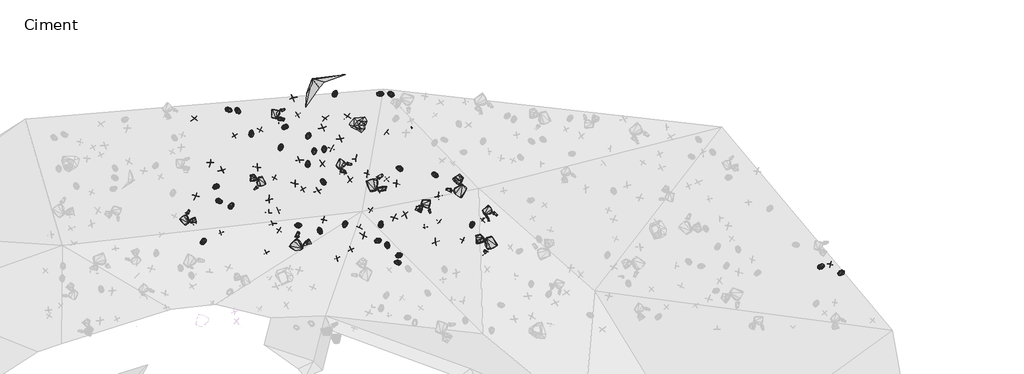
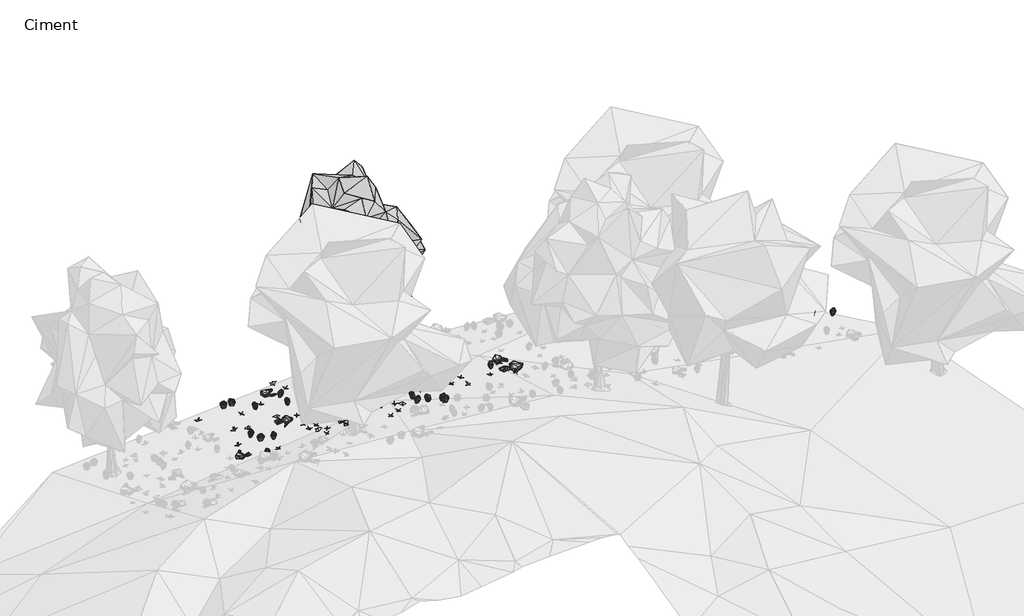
# One storey, part 29 of 30: 89 geographic elements.
"""IFC4 building model written with IfcOpenShell, lengths in millimetres."""

from ifc_helpers import new_model, si_unit, origin, place, context, project, spatial, transform, mapped, element, save
from components import enscape_assetdefinition_bush_025_fern_enscape_5718bf32, enscape_assetdefinition_bush_054_plant_09_version_2_enscape_7b546a12, enscape_assetdefinition_bush_062_plant_09_version_3_enscape_ccf8c8eb, enscape_assetdefinition_deciduous_tree_024_elm_enscape_8f9d8ef3, enscape_assetdefinition_stone_013_group_enscape_516da325, enscape_assetdefinition_stone_013_group_enscape_db9b3e91

model = new_model("IFC4")

# Units and contexts
model_context = context("Model", 3, world=origin())
ifc_project = project(units=[si_unit("LENGTHUNIT", "METRE", prefix="MILLI")], contexts=[model_context])

# Site, building, storey
site = spatial("IfcSite", under=ifc_project)
building = spatial("IfcBuilding", under=site)
storey = spatial("IfcBuildingStorey", under=building, Name="Ciment", Elevation=-1500.0)

# Geographic elements
placement = place(None, origin())
enscape_assetdefinition_bush_025_fern_enscape_shape = enscape_assetdefinition_bush_025_fern_enscape_5718bf32(model_context)
element("IfcGeographicElement", 1, ObjectType="Enscape AssetDefinition - Bush 025 Fern : Enscape AssetDefinition - Bush 025 Fern", at=placement, inside=storey, context=model_context, shape_type="MappedRepresentation", body=[
    mapped(enscape_assetdefinition_bush_025_fern_enscape_shape, transform((9662.6415253, 19468.5821533, -2189.8088455), x_axis=(-0.8992303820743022, 0.4374753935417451, 0.0), y_axis=(-0.4374753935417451, -0.8992303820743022, 0.0), z_axis=(0.0, 0.0, 1.0))),
])
element("IfcGeographicElement", 2, ObjectType="Enscape AssetDefinition - Bush 025 Fern : Enscape AssetDefinition - Bush 025 Fern", at=placement, inside=storey, context=model_context, shape_type="MappedRepresentation", body=[
    mapped(enscape_assetdefinition_bush_025_fern_enscape_shape, transform((6176.8474579, 17539.4592285, -1777.0651579), x_axis=(-0.2179223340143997, -0.9759661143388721, 0.0), y_axis=(0.9759661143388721, -0.2179223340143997, 0.0), z_axis=(0.0, 0.0, 1.0))),
])
element("IfcGeographicElement", 3, ObjectType="Enscape AssetDefinition - Bush 025 Fern : Enscape AssetDefinition - Bush 025 Fern", at=placement, inside=storey, context=model_context, shape_type="MappedRepresentation", body=[
    mapped(enscape_assetdefinition_bush_025_fern_enscape_shape, transform((11106.0228348, 17517.8604126, -1638.122797), x_axis=(-0.23561643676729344, -0.9718461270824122, 0.0), y_axis=(0.9718461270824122, -0.23561643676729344, 0.0), z_axis=(0.0, 0.0, 1.0))),
])
element("IfcGeographicElement", 4, ObjectType="Enscape AssetDefinition - Bush 025 Fern : Enscape AssetDefinition - Bush 025 Fern", at=placement, inside=storey, context=model_context, shape_type="MappedRepresentation", body=[
    mapped(enscape_assetdefinition_bush_025_fern_enscape_shape, transform((7822.1073151, 16721.1875916, -1572.3413229), x_axis=(0.28998935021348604, -0.9570298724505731, 0.0), y_axis=(0.9570298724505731, 0.28998935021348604, 0.0), z_axis=(0.0, 0.0, 1.0))),
])
element("IfcGeographicElement", 5, ObjectType="Enscape AssetDefinition - Bush 025 Fern : Enscape AssetDefinition - Bush 025 Fern", at=placement, inside=storey, context=model_context, shape_type="MappedRepresentation", body=[
    mapped(enscape_assetdefinition_bush_025_fern_enscape_shape, transform((7575.5443573, 17542.8180695, -1831.2122822), x_axis=(0.027685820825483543, 0.9996166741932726, 0.0), y_axis=(-0.9996166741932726, 0.027685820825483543, 0.0), z_axis=(0.0, 0.0, 1.0))),
])
element("IfcGeographicElement", 6, ObjectType="Enscape AssetDefinition - Bush 025 Fern : Enscape AssetDefinition - Bush 025 Fern", at=placement, inside=storey, context=model_context, shape_type="MappedRepresentation", body=[
    mapped(enscape_assetdefinition_bush_025_fern_enscape_shape, transform((8218.0690765, 16064.8860931, -1354.2209864), x_axis=(-0.9989838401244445, 0.04506980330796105, 0.0), y_axis=(-0.04506980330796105, -0.9989838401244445, 0.0), z_axis=(0.0, 0.0, 1.0))),
])
element("IfcGeographicElement", 7, ObjectType="Enscape AssetDefinition - Bush 025 Fern : Enscape AssetDefinition - Bush 025 Fern", at=placement, inside=storey, context=model_context, shape_type="MappedRepresentation", body=[
    mapped(enscape_assetdefinition_bush_025_fern_enscape_shape, transform((5333.1813812, 19198.7133026, -2275.7048607), x_axis=(-0.7331685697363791, 0.6800469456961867, 0.0), y_axis=(-0.6800469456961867, -0.7331685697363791, 0.0), z_axis=(0.0, 0.0, 1.0))),
])
element("IfcGeographicElement", 8, ObjectType="Enscape AssetDefinition - Bush 025 Fern : Enscape AssetDefinition - Bush 025 Fern", at=placement, inside=storey, context=model_context, shape_type="MappedRepresentation", body=[
    mapped(enscape_assetdefinition_bush_025_fern_enscape_shape, transform((7537.3702049, 22606.6226959, -2965.0483131), x_axis=(-0.9817774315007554, -0.19003440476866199, 0.0), y_axis=(0.19003440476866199, -0.9817774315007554, 0.0), z_axis=(0.0, 0.0, 1.0))),
])
element("IfcGeographicElement", 9, ObjectType="Enscape AssetDefinition - Bush 025 Fern : Enscape AssetDefinition - Bush 025 Fern", at=placement, inside=storey, context=model_context, shape_type="MappedRepresentation", body=[
    mapped(enscape_assetdefinition_bush_025_fern_enscape_shape, transform((3850.2941132, 21319.7422028, -2755.3060055), x_axis=(-0.8290707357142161, -0.5591437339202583, 0.0), y_axis=(0.5591437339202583, -0.8290707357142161, 0.0), z_axis=(0.0, 0.0, 1.0))),
])
element("IfcGeographicElement", 10, ObjectType="Enscape AssetDefinition - Bush 025 Fern : Enscape AssetDefinition - Bush 025 Fern", at=placement, inside=storey, context=model_context, shape_type="MappedRepresentation", body=[
    mapped(enscape_assetdefinition_bush_025_fern_enscape_shape, transform((4981.0729027, 20372.6139069, -2532.8435898), x_axis=(0.05044787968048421, -0.9987266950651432, 0.0), y_axis=(0.9987266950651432, 0.05044787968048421, 0.0), z_axis=(0.0, 0.0, 1.0))),
])
element("IfcGeographicElement", 11, ObjectType="Enscape AssetDefinition - Bush 025 Fern : Enscape AssetDefinition - Bush 025 Fern", at=placement, inside=storey, context=model_context, shape_type="MappedRepresentation", body=[
    mapped(enscape_assetdefinition_bush_025_fern_enscape_shape, transform((1175.6744385, 19007.610321, -2318.2077408), x_axis=(-0.7693294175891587, -0.6388522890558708, 0.0), y_axis=(0.6388522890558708, -0.7693294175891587, 0.0), z_axis=(0.0, 0.0, 1.0))),
])
element("IfcGeographicElement", 12, ObjectType="Enscape AssetDefinition - Bush 025 Fern : Enscape AssetDefinition - Bush 025 Fern", at=placement, inside=storey, context=model_context, shape_type="MappedRepresentation", body=[
    mapped(enscape_assetdefinition_bush_025_fern_enscape_shape, transform((4751.0852814, 20966.3314819, -2663.8150215), x_axis=(-0.3727912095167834, -0.9279152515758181, 0.0), y_axis=(0.9279152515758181, -0.3727912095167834, 0.0), z_axis=(0.0, 0.0, 1.0))),
])
element("IfcGeographicElement", 13, ObjectType="Enscape AssetDefinition - Bush 025 Fern : Enscape AssetDefinition - Bush 025 Fern", at=placement, inside=storey, context=model_context, shape_type="MappedRepresentation", body=[
    mapped(enscape_assetdefinition_bush_025_fern_enscape_shape, transform((2558.7348938, 21067.1443939, -2724.1945267), x_axis=(-0.033842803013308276, 0.999427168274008, 0.0), y_axis=(-0.999427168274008, -0.033842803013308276, 0.0), z_axis=(0.0, 0.0, 1.0))),
])
element("IfcGeographicElement", 14, ObjectType="Enscape AssetDefinition - Bush 025 Fern : Enscape AssetDefinition - Bush 025 Fern", at=placement, inside=storey, context=model_context, shape_type="MappedRepresentation", body=[
    mapped(enscape_assetdefinition_bush_025_fern_enscape_shape, transform((7447.2370148, 16908.2336426, -1623.6743927), x_axis=(-0.9418084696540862, -0.3361499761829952, 0.0), y_axis=(0.3361499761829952, -0.9418084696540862, 0.0), z_axis=(0.0, 0.0, 1.0))),
])
element("IfcGeographicElement", 15, ObjectType="Enscape AssetDefinition - Bush 025 Fern : Enscape AssetDefinition - Bush 025 Fern", at=placement, inside=storey, context=model_context, shape_type="MappedRepresentation", body=[
    mapped(enscape_assetdefinition_bush_025_fern_enscape_shape, transform((24638.4830475, 15901.1478424, -2933.601141), x_axis=(0.8923516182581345, 0.45134087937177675, 0.0), y_axis=(-0.45134087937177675, 0.8923516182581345, 0.0), z_axis=(0.0, 0.0, 1.0))),
])
element("IfcGeographicElement", 16, ObjectType="Enscape AssetDefinition - Bush 025 Fern : Enscape AssetDefinition - Bush 025 Fern", at=placement, inside=storey, context=model_context, shape_type="MappedRepresentation", body=[
    mapped(enscape_assetdefinition_bush_025_fern_enscape_shape, transform((1310.5067015, 18440.3572083, -2203.3653259), x_axis=(0.9708565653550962, -0.2396612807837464, 0.0), y_axis=(0.2396612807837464, 0.9708565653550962, 0.0), z_axis=(0.0, 0.0, 1.0))),
])
element("IfcGeographicElement", 17, ObjectType="Enscape AssetDefinition - Bush 025 Fern : Enscape AssetDefinition - Bush 025 Fern", at=placement, inside=storey, context=model_context, shape_type="MappedRepresentation", body=[
    mapped(enscape_assetdefinition_bush_025_fern_enscape_shape, transform((7955.0337791, 22601.2821198, -2956.5558434), x_axis=(-0.926329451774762, 0.3767144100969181, 0.0), y_axis=(-0.3767144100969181, -0.926329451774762, 0.0), z_axis=(0.0, 0.0, 1.0))),
])
element("IfcGeographicElement", 18, ObjectType="Enscape AssetDefinition - Bush 025 Fern : Enscape AssetDefinition - Bush 025 Fern", at=placement, inside=storey, context=model_context, shape_type="MappedRepresentation", body=[
    mapped(enscape_assetdefinition_bush_025_fern_enscape_shape, transform((2033.2241058, 21944.9806213, -2921.1256504), x_axis=(0.678842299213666, -0.7342840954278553, 0.0), y_axis=(0.7342840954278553, 0.678842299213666, 0.0), z_axis=(0.0, 0.0, 1.0))),
])
element("IfcGeographicElement", 19, ObjectType="Enscape AssetDefinition - Bush 025 Fern : Enscape AssetDefinition - Bush 025 Fern", at=placement, inside=storey, context=model_context, shape_type="MappedRepresentation", body=[
    mapped(enscape_assetdefinition_bush_025_fern_enscape_shape, transform((4381.1702728, 17495.5558777, -1850.5074978), x_axis=(0.9855781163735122, 0.1692210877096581, 0.0), y_axis=(-0.1692210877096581, 0.9855781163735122, 0.0), z_axis=(0.0, 0.0, 1.0))),
])
element("IfcGeographicElement", 20, ObjectType="Enscape AssetDefinition - Bush 025 Fern : Enscape AssetDefinition - Bush 025 Fern", at=placement, inside=storey, context=model_context, shape_type="MappedRepresentation", body=[
    mapped(enscape_assetdefinition_bush_025_fern_enscape_shape, transform((5208.8375092, 17281.8088531, -1674.0976572), x_axis=(0.3884507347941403, -0.9214694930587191, 0.0), y_axis=(0.9214694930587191, 0.3884507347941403, 0.0), z_axis=(0.0, 0.0, 1.0))),
])
element("IfcGeographicElement", 21, ObjectType="Enscape AssetDefinition - Bush 025 Fern : Enscape AssetDefinition - Bush 025 Fern", at=placement, inside=storey, context=model_context, shape_type="MappedRepresentation", body=[
    mapped(enscape_assetdefinition_bush_025_fern_enscape_shape, transform((702.9266357, 16879.3792725, -1735.4830503), x_axis=(0.5724685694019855, 0.819926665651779, 0.0), y_axis=(-0.819926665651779, 0.5724685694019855, 0.0), z_axis=(0.0, 0.0, 1.0))),
])
element("IfcGeographicElement", 22, ObjectType="Enscape AssetDefinition - Bush 025 Fern : Enscape AssetDefinition - Bush 025 Fern", at=placement, inside=storey, context=model_context, shape_type="MappedRepresentation", body=[
    mapped(enscape_assetdefinition_bush_025_fern_enscape_shape, transform((5373.1899261, 20446.0792542, -2541.5997505), x_axis=(0.06546062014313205, -0.9978551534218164, 0.0), y_axis=(0.9978551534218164, 0.06546062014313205, 0.0), z_axis=(0.0, 0.0, 1.0))),
])
element("IfcGeographicElement", 23, ObjectType="Enscape AssetDefinition - Bush 025 Fern : Enscape AssetDefinition - Bush 025 Fern", at=placement, inside=storey, context=model_context, shape_type="MappedRepresentation", body=[
    mapped(enscape_assetdefinition_bush_025_fern_enscape_shape, transform((8262.1545792, 16342.4377441, -1455.2102089), x_axis=(-0.9406609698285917, -0.33934781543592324, 0.0), y_axis=(0.33934781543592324, -0.9406609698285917, 0.0), z_axis=(0.0, 0.0, 1.0))),
])
element("IfcGeographicElement", 24, ObjectType="Enscape AssetDefinition - Bush 025 Fern : Enscape AssetDefinition - Bush 025 Fern", at=placement, inside=storey, context=model_context, shape_type="MappedRepresentation", body=[
    mapped(enscape_assetdefinition_bush_025_fern_enscape_shape, transform((3702.3143768, 20538.1145477, -2590.8665657), x_axis=(0.09816968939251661, 0.9951696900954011, 0.0), y_axis=(-0.9951696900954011, 0.09816968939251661, 0.0), z_axis=(0.0, 0.0, 1.0))),
])
element("IfcGeographicElement", 25, ObjectType="Enscape AssetDefinition - Bush 025 Fern : Enscape AssetDefinition - Bush 025 Fern", at=placement, inside=storey, context=model_context, shape_type="MappedRepresentation", body=[
    mapped(enscape_assetdefinition_bush_025_fern_enscape_shape, transform((1780.708313, 18262.1765137, -2157.756567), x_axis=(0.520350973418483, 0.853952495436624, 0.0), y_axis=(-0.853952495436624, 0.520350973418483, 0.0), z_axis=(0.0, 0.0, 1.0))),
])
element("IfcGeographicElement", 26, ObjectType="Enscape AssetDefinition - Bush 025 Fern : Enscape AssetDefinition - Bush 025 Fern", at=placement, inside=storey, context=model_context, shape_type="MappedRepresentation", body=[
    mapped(enscape_assetdefinition_bush_025_fern_enscape_shape, transform((5798.7647057, 22615.530014, -2997.746706), x_axis=(0.24118285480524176, 0.9704796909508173, 0.0), y_axis=(-0.9704796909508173, 0.24118285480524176, 0.0), z_axis=(0.0, 0.0, 1.0))),
])
element("IfcGeographicElement", 27, ObjectType="Enscape AssetDefinition - Bush 025 Fern : Enscape AssetDefinition - Bush 025 Fern", at=placement, inside=storey, context=model_context, shape_type="MappedRepresentation", body=[
    mapped(enscape_assetdefinition_bush_025_fern_enscape_shape, transform((4743.6695099, 19890.1195526, -2433.9232445), x_axis=(-0.020163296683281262, 0.9997967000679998, 0.0), y_axis=(-0.9997967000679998, -0.020163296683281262, 0.0), z_axis=(0.0, 0.0, 1.0))),
])
element("IfcGeographicElement", 28, ObjectType="Enscape AssetDefinition - Bush 025 Fern : Enscape AssetDefinition - Bush 025 Fern", at=placement, inside=storey, context=model_context, shape_type="MappedRepresentation", body=[
    mapped(enscape_assetdefinition_bush_025_fern_enscape_shape, transform((1683.052063, 21978.4049988, -2934.472084), x_axis=(0.959967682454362, -0.2801107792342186, 0.0), y_axis=(0.2801107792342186, 0.959967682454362, 0.0), z_axis=(0.0, 0.0, 1.0))),
])
element("IfcGeographicElement", 29, ObjectType="Enscape AssetDefinition - Bush 025 Fern : Enscape AssetDefinition - Bush 025 Fern", at=placement, inside=storey, context=model_context, shape_type="MappedRepresentation", body=[
    mapped(enscape_assetdefinition_bush_025_fern_enscape_shape, transform((25400.1102448, 15657.4048996, -2988.0547523), x_axis=(-0.8319604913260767, -0.5548348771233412, 0.0), y_axis=(0.5548348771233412, -0.8319604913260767, 0.0), z_axis=(0.0, 0.0, 1.0))),
])
element("IfcGeographicElement", 30, ObjectType="Enscape AssetDefinition - Bush 025 Fern : Enscape AssetDefinition - Bush 025 Fern", at=placement, inside=storey, context=model_context, shape_type="MappedRepresentation", body=[
    mapped(enscape_assetdefinition_bush_025_fern_enscape_shape, transform((8297.7619171, 19713.6955261, -2302.9317856), x_axis=(-0.9173004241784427, 0.39819584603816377, 0.0), y_axis=(-0.39819584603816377, -0.9173004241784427, 0.0), z_axis=(0.0, 0.0, 1.0))),
])
enscape_assetdefinition_bush_054_plant_09_version_2_enscape_shape = enscape_assetdefinition_bush_054_plant_09_version_2_enscape_7b546a12(model_context)
element("IfcGeographicElement", 31, ObjectType="Enscape AssetDefinition - Bush 054 Plant 09, Version 2 : Enscape AssetDefinition - Bush 054 Plant 09, Version 2", at=placement, inside=storey, context=model_context, shape_type="MappedRepresentation", body=[
    mapped(enscape_assetdefinition_bush_054_plant_09_version_2_enscape_shape, transform((2897.7909088, 21206.5219879, -2747.9786873), x_axis=(-0.42040109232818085, -0.9073383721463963, 0.0), y_axis=(0.9073383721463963, -0.42040109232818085, 0.0), z_axis=(0.0, 0.0, 1.0))),
])
element("IfcGeographicElement", 32, ObjectType="Enscape AssetDefinition - Bush 054 Plant 09, Version 2 : Enscape AssetDefinition - Bush 054 Plant 09, Version 2", at=placement, inside=storey, context=model_context, shape_type="MappedRepresentation", body=[
    mapped(enscape_assetdefinition_bush_054_plant_09_version_2_enscape_shape, transform((1901.2794495, 20991.6973114, -2719.7146416), x_axis=(-0.8293414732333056, -0.5587420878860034, 0.0), y_axis=(0.5587420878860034, -0.8293414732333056, 0.0), z_axis=(0.0, 0.0, 1.0))),
])
element("IfcGeographicElement", 33, ObjectType="Enscape AssetDefinition - Bush 054 Plant 09, Version 2 : Enscape AssetDefinition - Bush 054 Plant 09, Version 2", at=placement, inside=storey, context=model_context, shape_type="MappedRepresentation", body=[
    mapped(enscape_assetdefinition_bush_054_plant_09_version_2_enscape_shape, transform((11515.1872635, 17701.1375427, -1697.920084), x_axis=(-0.7408417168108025, 0.6716796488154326, 0.0), y_axis=(-0.6716796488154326, -0.7408417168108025, 0.0), z_axis=(0.0, 0.0, 1.0))),
])
element("IfcGeographicElement", 34, ObjectType="Enscape AssetDefinition - Bush 054 Plant 09, Version 2 : Enscape AssetDefinition - Bush 054 Plant 09, Version 2", at=placement, inside=storey, context=model_context, shape_type="MappedRepresentation", body=[
    mapped(enscape_assetdefinition_bush_054_plant_09_version_2_enscape_shape, transform((3636.5604401, 17308.8264465, -1791.6356325), x_axis=(-0.8775846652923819, 0.4794216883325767, 0.0), y_axis=(-0.4794216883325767, -0.8775846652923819, 0.0), z_axis=(0.0, 0.0, 1.0))),
])
element("IfcGeographicElement", 35, ObjectType="Enscape AssetDefinition - Bush 054 Plant 09, Version 2 : Enscape AssetDefinition - Bush 054 Plant 09, Version 2", at=placement, inside=storey, context=model_context, shape_type="MappedRepresentation", body=[
    mapped(enscape_assetdefinition_bush_054_plant_09_version_2_enscape_shape, transform((9828.8974762, 17642.2233582, -1738.4346724), x_axis=(-0.5888126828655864, -0.8082695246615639, 0.0), y_axis=(0.8082695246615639, -0.5888126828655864, 0.0), z_axis=(0.0, 0.0, 1.0))),
])
element("IfcGeographicElement", 36, ObjectType="Enscape AssetDefinition - Bush 054 Plant 09, Version 2 : Enscape AssetDefinition - Bush 054 Plant 09, Version 2", at=placement, inside=storey, context=model_context, shape_type="MappedRepresentation", body=[
    mapped(enscape_assetdefinition_bush_054_plant_09_version_2_enscape_shape, transform((10746.6173172, 16926.8302917, -1501.0018349), x_axis=(0.930003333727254, -0.3675510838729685, 0.0), y_axis=(0.3675510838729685, 0.930003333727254, 0.0), z_axis=(0.0, 0.0, 1.0))),
])
element("IfcGeographicElement", 37, ObjectType="Enscape AssetDefinition - Bush 054 Plant 09, Version 2 : Enscape AssetDefinition - Bush 054 Plant 09, Version 2", at=placement, inside=storey, context=model_context, shape_type="MappedRepresentation", body=[
    mapped(enscape_assetdefinition_bush_054_plant_09_version_2_enscape_shape, transform((5876.127243, 16226.0379791, -1301.8471003), x_axis=(-0.391816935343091, 0.9200431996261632, 0.0), y_axis=(-0.9200431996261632, -0.391816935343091, 0.0), z_axis=(0.0, 0.0, 1.0))),
])
element("IfcGeographicElement", 38, ObjectType="Enscape AssetDefinition - Bush 054 Plant 09, Version 2 : Enscape AssetDefinition - Bush 054 Plant 09, Version 2", at=placement, inside=storey, context=model_context, shape_type="MappedRepresentation", body=[
    mapped(enscape_assetdefinition_bush_054_plant_09_version_2_enscape_shape, transform((3589.0293121, 18066.6217804, -2078.9000988), x_axis=(0.9123359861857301, 0.4094423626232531, 0.0), y_axis=(-0.4094423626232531, 0.9123359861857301, 0.0), z_axis=(0.0, 0.0, 1.0))),
])
element("IfcGeographicElement", 39, ObjectType="Enscape AssetDefinition - Bush 054 Plant 09, Version 2 : Enscape AssetDefinition - Bush 054 Plant 09, Version 2", at=placement, inside=storey, context=model_context, shape_type="MappedRepresentation", body=[
    mapped(enscape_assetdefinition_bush_054_plant_09_version_2_enscape_shape, transform((7797.9373932, 21128.0479431, -2633.5749626), x_axis=(-0.8055631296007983, 0.5925099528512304, 0.0), y_axis=(-0.5925099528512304, -0.8055631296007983, 0.0), z_axis=(0.0, 0.0, 1.0))),
])
element("IfcGeographicElement", 40, ObjectType="Enscape AssetDefinition - Bush 054 Plant 09, Version 2 : Enscape AssetDefinition - Bush 054 Plant 09, Version 2", at=placement, inside=storey, context=model_context, shape_type="MappedRepresentation", body=[
    mapped(enscape_assetdefinition_bush_054_plant_09_version_2_enscape_shape, transform((1374.1970062, 17207.2601318, -1880.1425695), x_axis=(-0.3632197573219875, 0.9317034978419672, 0.0), y_axis=(-0.9317034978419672, -0.3632197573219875, 0.0), z_axis=(0.0, 0.0, 1.0))),
])
element("IfcGeographicElement", 41, ObjectType="Enscape AssetDefinition - Bush 054 Plant 09, Version 2 : Enscape AssetDefinition - Bush 054 Plant 09, Version 2", at=placement, inside=storey, context=model_context, shape_type="MappedRepresentation", body=[
    mapped(enscape_assetdefinition_bush_054_plant_09_version_2_enscape_shape, transform((3131.9942474, 16443.7675476, -1327.7941942), x_axis=(-0.8614926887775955, -0.5077699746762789, 0.0), y_axis=(0.5077699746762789, -0.8614926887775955, 0.0), z_axis=(0.0, 0.0, 1.0))),
])
element("IfcGeographicElement", 42, ObjectType="Enscape AssetDefinition - Bush 054 Plant 09, Version 2 : Enscape AssetDefinition - Bush 054 Plant 09, Version 2", at=placement, inside=storey, context=model_context, shape_type="MappedRepresentation", body=[
    mapped(enscape_assetdefinition_bush_054_plant_09_version_2_enscape_shape, transform((4352.0298004, 21797.624588, -2848.5579491), x_axis=(-0.8124831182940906, -0.582984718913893, 0.0), y_axis=(0.582984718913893, -0.8124831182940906, 0.0), z_axis=(0.0, 0.0, 1.0))),
])
element("IfcGeographicElement", 43, ObjectType="Enscape AssetDefinition - Bush 054 Plant 09, Version 2 : Enscape AssetDefinition - Bush 054 Plant 09, Version 2", at=placement, inside=storey, context=model_context, shape_type="MappedRepresentation", body=[
    mapped(enscape_assetdefinition_bush_054_plant_09_version_2_enscape_shape, transform((7809.3166351, 19295.6008911, -2232.9723835), x_axis=(-0.6676052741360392, 0.7445154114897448, 0.0), y_axis=(-0.7445154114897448, -0.6676052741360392, 0.0), z_axis=(0.0, 0.0, 1.0))),
])
element("IfcGeographicElement", 44, ObjectType="Enscape AssetDefinition - Bush 054 Plant 09, Version 2 : Enscape AssetDefinition - Bush 054 Plant 09, Version 2", at=placement, inside=storey, context=model_context, shape_type="MappedRepresentation", body=[
    mapped(enscape_assetdefinition_bush_054_plant_09_version_2_enscape_shape, transform((24987.3561859, 15980.846405, -2974.132061), x_axis=(0.9866085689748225, -0.16310589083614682, 0.0), y_axis=(0.16310589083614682, 0.9866085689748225, 0.0), z_axis=(0.0, 0.0, 1.0))),
])
element("IfcGeographicElement", 45, ObjectType="Enscape AssetDefinition - Bush 054 Plant 09, Version 2 : Enscape AssetDefinition - Bush 054 Plant 09, Version 2", at=placement, inside=storey, context=model_context, shape_type="MappedRepresentation", body=[
    mapped(enscape_assetdefinition_bush_054_plant_09_version_2_enscape_shape, transform((9277.1587372, 17430.5553436, -1711.6732597), x_axis=(-0.9819323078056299, -0.18923251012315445, 0.0), y_axis=(0.18923251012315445, -0.9819323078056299, 0.0), z_axis=(0.0, 0.0, 1.0))),
])
element("IfcGeographicElement", 46, ObjectType="Enscape AssetDefinition - Bush 054 Plant 09, Version 2 : Enscape AssetDefinition - Bush 054 Plant 09, Version 2", at=placement, inside=storey, context=model_context, shape_type="MappedRepresentation", body=[
    mapped(enscape_assetdefinition_bush_054_plant_09_version_2_enscape_shape, transform((3217.6914215, 17994.6327209, -2072.9827881), x_axis=(-0.004332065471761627, -0.9999906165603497, 0.0), y_axis=(0.9999906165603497, -0.004332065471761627, 0.0), z_axis=(0.0, 0.0, 1.0))),
])
element("IfcGeographicElement", 47, ObjectType="Enscape AssetDefinition - Bush 054 Plant 09, Version 2 : Enscape AssetDefinition - Bush 054 Plant 09, Version 2", at=placement, inside=storey, context=model_context, shape_type="MappedRepresentation", body=[
    mapped(enscape_assetdefinition_bush_054_plant_09_version_2_enscape_shape, transform((7178.194046, 18095.697403, -1998.2322454), x_axis=(0.8742854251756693, -0.4854121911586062, 0.0), y_axis=(0.4854121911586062, 0.8742854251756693, 0.0), z_axis=(0.0, 0.0, 1.0))),
])
element("IfcGeographicElement", 48, ObjectType="Enscape AssetDefinition - Bush 054 Plant 09, Version 2 : Enscape AssetDefinition - Bush 054 Plant 09, Version 2", at=placement, inside=storey, context=model_context, shape_type="MappedRepresentation", body=[
    mapped(enscape_assetdefinition_bush_054_plant_09_version_2_enscape_shape, transform((3451.7192841, 19341.1254883, -2339.468956), x_axis=(-0.8985749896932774, 0.43881999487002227, 0.0), y_axis=(-0.43881999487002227, -0.8985749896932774, 0.0), z_axis=(0.0, 0.0, 1.0))),
])
element("IfcGeographicElement", 49, ObjectType="Enscape AssetDefinition - Bush 054 Plant 09, Version 2 : Enscape AssetDefinition - Bush 054 Plant 09, Version 2", at=placement, inside=storey, context=model_context, shape_type="MappedRepresentation", body=[
    mapped(enscape_assetdefinition_bush_054_plant_09_version_2_enscape_shape, transform((5360.5179787, 17723.0949402, -1917.5736904), x_axis=(-0.9888999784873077, 0.14858274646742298, 0.0), y_axis=(-0.14858274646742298, -0.9888999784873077, 0.0), z_axis=(0.0, 0.0, 1.0))),
])
element("IfcGeographicElement", 50, ObjectType="Enscape AssetDefinition - Bush 054 Plant 09, Version 2 : Enscape AssetDefinition - Bush 054 Plant 09, Version 2", at=placement, inside=storey, context=model_context, shape_type="MappedRepresentation", body=[
    mapped(enscape_assetdefinition_bush_054_plant_09_version_2_enscape_shape, transform((4550.0774384, 18914.2112732, -2228.7676334), x_axis=(-0.8429715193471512, -0.537958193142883, 0.0), y_axis=(0.537958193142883, -0.8429715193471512, 0.0), z_axis=(0.0, 0.0, 1.0))),
])
element("IfcGeographicElement", 51, ObjectType="Enscape AssetDefinition - Bush 054 Plant 09, Version 2 : Enscape AssetDefinition - Bush 054 Plant 09, Version 2", at=placement, inside=storey, context=model_context, shape_type="MappedRepresentation", body=[
    mapped(enscape_assetdefinition_bush_054_plant_09_version_2_enscape_shape, transform((6411.4093781, 16564.250946, -1457.9527378), x_axis=(0.48393749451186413, -0.8751025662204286, 0.0), y_axis=(0.8751025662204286, 0.48393749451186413, 0.0), z_axis=(0.0, 0.0, 1.0))),
])
element("IfcGeographicElement", 52, ObjectType="Enscape AssetDefinition - Bush 054 Plant 09, Version 2 : Enscape AssetDefinition - Bush 054 Plant 09, Version 2", at=placement, inside=storey, context=model_context, shape_type="MappedRepresentation", body=[
    mapped(enscape_assetdefinition_bush_054_plant_09_version_2_enscape_shape, transform((6739.9425507, 17426.0787964, -1779.4551849), x_axis=(-0.9174664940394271, 0.39781306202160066, 0.0), y_axis=(-0.39781306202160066, -0.9174664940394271, 0.0), z_axis=(0.0, 0.0, 1.0))),
])
enscape_assetdefinition_bush_062_plant_09_version_3_enscape_shape = enscape_assetdefinition_bush_062_plant_09_version_3_enscape_ccf8c8eb(model_context)
element("IfcGeographicElement", 53, ObjectType="Enscape AssetDefinition - Bush 062 Plant 09, Version 3 : Enscape AssetDefinition - Bush 062 Plant 09, Version 3", at=placement, inside=storey, context=model_context, shape_type="MappedRepresentation", body=[
    mapped(enscape_assetdefinition_bush_062_plant_09_version_3_enscape_shape, transform((1415.0238037, 19640.6364441, -2439.5596981), x_axis=(-0.5354163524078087, 0.8445882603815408, 0.0), y_axis=(-0.8445882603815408, -0.5354163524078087, 0.0), z_axis=(0.0, 0.0, 1.0))),
])
element("IfcGeographicElement", 54, ObjectType="Enscape AssetDefinition - Bush 062 Plant 09, Version 3 : Enscape AssetDefinition - Bush 062 Plant 09, Version 3", at=placement, inside=storey, context=model_context, shape_type="MappedRepresentation", body=[
    mapped(enscape_assetdefinition_bush_062_plant_09_version_3_enscape_shape, transform((5299.9706268, 19899.0573883, -2425.9800911), x_axis=(0.5577266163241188, 0.8300247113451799, 0.0), y_axis=(-0.8300247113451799, 0.5577266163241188, 0.0), z_axis=(0.0, 0.0, 1.0))),
])
element("IfcGeographicElement", 55, ObjectType="Enscape AssetDefinition - Bush 062 Plant 09, Version 3 : Enscape AssetDefinition - Bush 062 Plant 09, Version 3", at=placement, inside=storey, context=model_context, shape_type="MappedRepresentation", body=[
    mapped(enscape_assetdefinition_bush_062_plant_09_version_3_enscape_shape, transform((5128.8890839, 18835.8268738, -2201.7617226), x_axis=(-0.6434427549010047, 0.7654942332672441, 0.0), y_axis=(-0.7654942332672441, -0.6434427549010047, 0.0), z_axis=(0.0, 0.0, 1.0))),
])
element("IfcGeographicElement", 56, ObjectType="Enscape AssetDefinition - Bush 062 Plant 09, Version 3 : Enscape AssetDefinition - Bush 062 Plant 09, Version 3", at=placement, inside=storey, context=model_context, shape_type="MappedRepresentation", body=[
    mapped(enscape_assetdefinition_bush_062_plant_09_version_3_enscape_shape, transform((5664.2856598, 20492.5918579, -2546.3852882), x_axis=(0.9850157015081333, -0.1724646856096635, 0.0), y_axis=(0.1724646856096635, 0.9850157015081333, 0.0), z_axis=(0.0, 0.0, 1.0))),
])
element("IfcGeographicElement", 57, ObjectType="Enscape AssetDefinition - Bush 062 Plant 09, Version 3 : Enscape AssetDefinition - Bush 062 Plant 09, Version 3", at=placement, inside=storey, context=model_context, shape_type="MappedRepresentation", body=[
    mapped(enscape_assetdefinition_bush_062_plant_09_version_3_enscape_shape, transform((9693.1095123, 16863.3117676, -1539.8768187), x_axis=(0.9047601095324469, 0.4259215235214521, 0.0), y_axis=(-0.4259215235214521, 0.9047601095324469, 0.0), z_axis=(0.0, 0.0, 1.0))),
])
element("IfcGeographicElement", 58, ObjectType="Enscape AssetDefinition - Bush 062 Plant 09, Version 3 : Enscape AssetDefinition - Bush 062 Plant 09, Version 3", at=placement, inside=storey, context=model_context, shape_type="MappedRepresentation", body=[
    mapped(enscape_assetdefinition_bush_062_plant_09_version_3_enscape_shape, transform((5313.7226105, 21286.1461639, -2722.2037315), x_axis=(-0.5176329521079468, 0.8556027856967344, 0.0), y_axis=(-0.8556027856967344, -0.5176329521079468, 0.0), z_axis=(0.0, 0.0, 1.0))),
])
element("IfcGeographicElement", 59, ObjectType="Enscape AssetDefinition - Bush 062 Plant 09, Version 3 : Enscape AssetDefinition - Bush 062 Plant 09, Version 3", at=placement, inside=storey, context=model_context, shape_type="MappedRepresentation", body=[
    mapped(enscape_assetdefinition_bush_062_plant_09_version_3_enscape_shape, transform((4173.948288, 22450.6950378, -2991.2958145), x_axis=(0.5233712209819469, -0.8521047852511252, 0.0), y_axis=(0.8521047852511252, 0.5233712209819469, 0.0), z_axis=(0.0, 0.0, 1.0))),
])
element("IfcGeographicElement", 60, ObjectType="Enscape AssetDefinition - Bush 062 Plant 09, Version 3 : Enscape AssetDefinition - Bush 062 Plant 09, Version 3", at=placement, inside=storey, context=model_context, shape_type="MappedRepresentation", body=[
    mapped(enscape_assetdefinition_bush_062_plant_09_version_3_enscape_shape, transform((3391.5002346, 17558.9675903, -1951.130271), x_axis=(0.45294982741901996, -0.8915360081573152, 0.0), y_axis=(0.8915360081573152, 0.45294982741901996, 0.0), z_axis=(0.0, 0.0, 1.0))),
])
element("IfcGeographicElement", 61, ObjectType="Enscape AssetDefinition - Bush 062 Plant 09, Version 3 : Enscape AssetDefinition - Bush 062 Plant 09, Version 3", at=placement, inside=storey, context=model_context, shape_type="MappedRepresentation", body=[
    mapped(enscape_assetdefinition_bush_062_plant_09_version_3_enscape_shape, transform((2771.7819214, 19752.3326874, -2439.4011497), x_axis=(-0.21132863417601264, 0.9774150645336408, 0.0), y_axis=(-0.9774150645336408, -0.21132863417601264, 0.0), z_axis=(0.0, 0.0, 1.0))),
])
element("IfcGeographicElement", 62, ObjectType="Enscape AssetDefinition - Bush 062 Plant 09, Version 3 : Enscape AssetDefinition - Bush 062 Plant 09, Version 3", at=placement, inside=storey, context=model_context, shape_type="MappedRepresentation", body=[
    mapped(enscape_assetdefinition_bush_062_plant_09_version_3_enscape_shape, transform((968.5459137, 19919.8932648, -2507.1544647), x_axis=(-0.9929905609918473, -0.11819367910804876, 0.0), y_axis=(0.11819367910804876, -0.9929905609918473, 0.0), z_axis=(0.0, 0.0, 1.0))),
])
element("IfcGeographicElement", 63, ObjectType="Enscape AssetDefinition - Bush 062 Plant 09, Version 3 : Enscape AssetDefinition - Bush 062 Plant 09, Version 3", at=placement, inside=storey, context=model_context, shape_type="MappedRepresentation", body=[
    mapped(enscape_assetdefinition_bush_062_plant_09_version_3_enscape_shape, transform((401.4301002, 18633.1119537, -2261.6286278), x_axis=(-0.9942032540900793, 0.10751692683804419, 0.0), y_axis=(-0.10751692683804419, -0.9942032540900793, 0.0), z_axis=(0.0, 0.0, 1.0))),
])
element("IfcGeographicElement", 64, ObjectType="Enscape AssetDefinition - Bush 062 Plant 09, Version 3 : Enscape AssetDefinition - Bush 062 Plant 09, Version 3", at=placement, inside=storey, context=model_context, shape_type="MappedRepresentation", body=[
    mapped(enscape_assetdefinition_bush_062_plant_09_version_3_enscape_shape, transform((7064.6076202, 19504.4956207, -2310.3916645), x_axis=(0.016467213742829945, -0.9998644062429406, 0.0), y_axis=(0.9998644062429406, 0.016467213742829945, 0.0), z_axis=(0.0, 0.0, 1.0))),
])
element("IfcGeographicElement", 65, ObjectType="Enscape AssetDefinition - Bush 062 Plant 09, Version 3 : Enscape AssetDefinition - Bush 062 Plant 09, Version 3", at=placement, inside=storey, context=model_context, shape_type="MappedRepresentation", body=[
    mapped(enscape_assetdefinition_bush_062_plant_09_version_3_enscape_shape, transform((5996.4962006, 20861.3262177, -2619.312048), x_axis=(-0.40520253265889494, 0.9142269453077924, 0.0), y_axis=(-0.9142269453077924, -0.40520253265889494, 0.0), z_axis=(0.0, 0.0, 1.0))),
])
element("IfcGeographicElement", 66, ObjectType="Enscape AssetDefinition - Bush 062 Plant 09, Version 3 : Enscape AssetDefinition - Bush 062 Plant 09, Version 3", at=placement, inside=storey, context=model_context, shape_type="MappedRepresentation", body=[
    mapped(enscape_assetdefinition_bush_062_plant_09_version_3_enscape_shape, transform((4422.2660065, 20040.4529572, -2471.74716), x_axis=(0.4022371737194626, -0.9155355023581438, 0.0), y_axis=(0.9155355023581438, 0.4022371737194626, 0.0), z_axis=(0.0, 0.0, 1.0))),
])
element("IfcGeographicElement", 67, ObjectType="Enscape AssetDefinition - Bush 062 Plant 09, Version 3 : Enscape AssetDefinition - Bush 062 Plant 09, Version 3", at=placement, inside=storey, context=model_context, shape_type="MappedRepresentation", body=[
    mapped(enscape_assetdefinition_bush_062_plant_09_version_3_enscape_shape, transform((8202.8331757, 19128.9196014, -2179.3935299), x_axis=(0.07219887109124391, -0.9973902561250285, 0.0), y_axis=(0.9973902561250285, 0.07219887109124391, 0.0), z_axis=(0.0, 0.0, 1.0))),
])
element("IfcGeographicElement", 68, ObjectType="Enscape AssetDefinition - Bush 062 Plant 09, Version 3 : Enscape AssetDefinition - Bush 062 Plant 09, Version 3", at=placement, inside=storey, context=model_context, shape_type="MappedRepresentation", body=[
    mapped(enscape_assetdefinition_bush_062_plant_09_version_3_enscape_shape, transform((6606.8401337, 20099.1153717, -2445.5909729), x_axis=(0.989173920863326, 0.1467479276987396, 0.0), y_axis=(-0.1467479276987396, 0.989173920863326, 0.0), z_axis=(0.0, 0.0, 1.0))),
])
element("IfcGeographicElement", 69, ObjectType="Enscape AssetDefinition - Bush 062 Plant 09, Version 3 : Enscape AssetDefinition - Bush 062 Plant 09, Version 3", at=placement, inside=storey, context=model_context, shape_type="MappedRepresentation", body=[
    mapped(enscape_assetdefinition_bush_062_plant_09_version_3_enscape_shape, transform((3237.8559113, 18515.7909393, -2175.2822399), x_axis=(0.9435297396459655, 0.331287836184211, 0.0), y_axis=(-0.331287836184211, 0.9435297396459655, 0.0), z_axis=(0.0, 0.0, 1.0))),
])
element("IfcGeographicElement", 70, ObjectType="Enscape AssetDefinition - Bush 062 Plant 09, Version 3 : Enscape AssetDefinition - Bush 062 Plant 09, Version 3", at=placement, inside=storey, context=model_context, shape_type="MappedRepresentation", body=[
    mapped(enscape_assetdefinition_bush_062_plant_09_version_3_enscape_shape, transform((8093.8968658, 17814.8651123, -1875.6853342), x_axis=(0.9865087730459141, -0.16370840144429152, 0.0), y_axis=(0.16370840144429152, 0.9865087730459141, 0.0), z_axis=(0.0, 0.0, 1.0))),
])
element("IfcGeographicElement", 71, ObjectType="Enscape AssetDefinition - Bush 062 Plant 09, Version 3 : Enscape AssetDefinition - Bush 062 Plant 09, Version 3", at=placement, inside=storey, context=model_context, shape_type="MappedRepresentation", body=[
    mapped(enscape_assetdefinition_bush_062_plant_09_version_3_enscape_shape, transform((8515.8338547, 17922.3899841, -1881.7964792), x_axis=(-0.7308982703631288, -0.6824864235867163, 0.0), y_axis=(0.6824864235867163, -0.7308982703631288, 0.0), z_axis=(0.0, 0.0, 1.0))),
])
element("IfcGeographicElement", 72, ObjectType="Enscape AssetDefinition - Bush 062 Plant 09, Version 3 : Enscape AssetDefinition - Bush 062 Plant 09, Version 3", at=placement, inside=storey, context=model_context, shape_type="MappedRepresentation", body=[
    mapped(enscape_assetdefinition_bush_062_plant_09_version_3_enscape_shape, transform((6371.2711334, 19276.1039734, -2273.8585472), x_axis=(0.6290325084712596, 0.7773789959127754, 0.0), y_axis=(-0.7773789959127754, 0.6290325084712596, 0.0), z_axis=(0.0, 0.0, 1.0))),
])
element("IfcGeographicElement", 73, ObjectType="Enscape AssetDefinition - Bush 062 Plant 09, Version 3 : Enscape AssetDefinition - Bush 062 Plant 09, Version 3", at=placement, inside=storey, context=model_context, shape_type="MappedRepresentation", body=[
    mapped(enscape_assetdefinition_bush_062_plant_09_version_3_enscape_shape, transform((4233.6063385, 19127.4967194, -2279.9592018), x_axis=(-0.1391341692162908, 0.9902735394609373, 0.0), y_axis=(-0.9902735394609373, -0.1391341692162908, 0.0), z_axis=(0.0, 0.0, 1.0))),
])
element("IfcGeographicElement", 74, ObjectType="Enscape AssetDefinition - Bush 062 Plant 09, Version 3 : Enscape AssetDefinition - Bush 062 Plant 09, Version 3", at=placement, inside=storey, context=model_context, shape_type="MappedRepresentation", body=[
    mapped(enscape_assetdefinition_bush_062_plant_09_version_3_enscape_shape, transform((9801.1798859, 18642.8489685, -2003.4644604), x_axis=(0.9469125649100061, 0.321491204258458, 0.0), y_axis=(-0.321491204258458, 0.9469125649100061, 0.0), z_axis=(0.0, 0.0, 1.0))),
])
element("IfcGeographicElement", 75, ObjectType="Enscape AssetDefinition - Bush 062 Plant 09, Version 3 : Enscape AssetDefinition - Bush 062 Plant 09, Version 3", at=placement, inside=storey, context=model_context, shape_type="MappedRepresentation", body=[
    mapped(enscape_assetdefinition_bush_062_plant_09_version_3_enscape_shape, transform((343.4409797, 21642.5991058, -2886.4271641), x_axis=(-0.8384735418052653, 0.5449423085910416, 0.0), y_axis=(-0.5449423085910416, -0.8384735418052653, 0.0), z_axis=(0.0, 0.0, 1.0))),
])
element("IfcGeographicElement", 76, ObjectType="Enscape AssetDefinition - Bush 062 Plant 09, Version 3 : Enscape AssetDefinition - Bush 062 Plant 09, Version 3", at=placement, inside=storey, context=model_context, shape_type="MappedRepresentation", body=[
    mapped(enscape_assetdefinition_bush_062_plant_09_version_3_enscape_shape, transform((6893.5723305, 17120.4853058, -1676.6209602), x_axis=(0.19317258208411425, 0.9811647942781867, 0.0), y_axis=(-0.9811647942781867, 0.19317258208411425, 0.0), z_axis=(0.0, 0.0, 1.0))),
])
element("IfcGeographicElement", 77, ObjectType="Enscape AssetDefinition - Bush 062 Plant 09, Version 3 : Enscape AssetDefinition - Bush 062 Plant 09, Version 3", at=placement, inside=storey, context=model_context, shape_type="MappedRepresentation", body=[
    mapped(enscape_assetdefinition_bush_062_plant_09_version_3_enscape_shape, transform((5424.1204262, 21662.64534, -2800.7185459), x_axis=(0.8789533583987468, -0.4769077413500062, 0.0), y_axis=(0.4769077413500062, 0.8789533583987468, 0.0), z_axis=(0.0, 0.0, 1.0))),
])
element("IfcGeographicElement", 78, ObjectType="Enscape AssetDefinition - Bush 062 Plant 09, Version 3 : Enscape AssetDefinition - Bush 062 Plant 09, Version 3", at=placement, inside=storey, context=model_context, shape_type="MappedRepresentation", body=[
    mapped(enscape_assetdefinition_bush_062_plant_09_version_3_enscape_shape, transform((6274.6448517, 21720.872879, -2798.0995178), x_axis=(-0.8979502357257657, 0.4400970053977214, 0.0), y_axis=(-0.4400970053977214, -0.8979502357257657, 0.0), z_axis=(0.0, 0.0, 1.0))),
])
enscape_assetdefinition_deciduous_tree_024_elm_enscape_shape = enscape_assetdefinition_deciduous_tree_024_elm_enscape_8f9d8ef3(model_context)
element("IfcGeographicElement", 79, ObjectType="Enscape AssetDefinition - Deciduous Tree 024 Elm : Enscape AssetDefinition - Deciduous Tree 024 Elm", at=placement, inside=storey, context=model_context, shape_type="MappedRepresentation", body=[
    mapped(enscape_assetdefinition_deciduous_tree_024_elm_enscape_shape, transform((6738.1153107, 21504.2114258, -2743.5817719), x_axis=(-0.903886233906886, -0.4277729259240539, 0.0), y_axis=(0.4277729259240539, -0.903886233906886, 0.0), z_axis=(0.0, 0.0, 1.0))),
])
enscape_assetdefinition_stone_013_group_enscape_shape = enscape_assetdefinition_stone_013_group_enscape_516da325(model_context)
element("IfcGeographicElement", 80, ObjectType="Enscape AssetDefinition - Stone 013 Group : Enscape AssetDefinition - Stone 013 Group", at=placement, inside=storey, context=model_context, shape_type="MappedRepresentation", body=[
    mapped(enscape_assetdefinition_stone_013_group_enscape_shape, transform((10495.18013, 18985.3420258, -2047.9397774), x_axis=(-0.5773233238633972, -0.816515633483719, 0.0), y_axis=(0.816515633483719, -0.5773233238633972, 0.0), z_axis=(0.0, 0.0, 1.0))),
])
element("IfcGeographicElement", 81, ObjectType="Enscape AssetDefinition - Stone 013 Group : Enscape AssetDefinition - Stone 013 Group", at=placement, inside=storey, context=model_context, shape_type="MappedRepresentation", body=[
    mapped(enscape_assetdefinition_stone_013_group_enscape_shape, transform((11629.8236847, 16745.5978394, -1465.6838179), x_axis=(0.4357281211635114, -0.9000783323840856, 0.0), y_axis=(0.9000783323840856, 0.4357281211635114, 0.0), z_axis=(0.0, 0.0, 1.0))),
])
element("IfcGeographicElement", 82, ObjectType="Enscape AssetDefinition - Stone 013 Group : Enscape AssetDefinition - Stone 013 Group", at=placement, inside=storey, context=model_context, shape_type="MappedRepresentation", body=[
    mapped(enscape_assetdefinition_stone_013_group_enscape_shape, transform((7456.987381, 19109.6687317, -2207.7608109), x_axis=(-0.2760219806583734, 0.9611513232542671, 0.0), y_axis=(-0.9611513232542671, -0.2760219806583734, 0.0), z_axis=(0.0, 0.0, 1.0))),
])
element("IfcGeographicElement", 83, ObjectType="Enscape AssetDefinition - Stone 013 Group : Enscape AssetDefinition - Stone 013 Group", at=placement, inside=storey, context=model_context, shape_type="MappedRepresentation", body=[
    mapped(enscape_assetdefinition_stone_013_group_enscape_shape, transform((4449.6779442, 16853.1837463, -1477.3106575), x_axis=(-0.7884232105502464, 0.6151331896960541, 0.0), y_axis=(-0.6151331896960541, -0.7884232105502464, 0.0), z_axis=(0.0, 0.0, 1.0))),
])
enscape_assetdefinition_stone_013_group_enscape_2_shape = enscape_assetdefinition_stone_013_group_enscape_db9b3e91(model_context)
element("IfcGeographicElement", 84, ObjectType="Enscape AssetDefinition - Stone 013 Group : Enscape AssetDefinition - Stone 013 Group 2", at=placement, inside=storey, context=model_context, shape_type="MappedRepresentation", body=[
    mapped(enscape_assetdefinition_stone_013_group_enscape_2_shape, transform((9294.0502167, 18195.8427429, -1912.9135609), x_axis=(0.993497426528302, -0.1138545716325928, 0.0), y_axis=(0.1138545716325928, 0.993497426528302, 0.0), z_axis=(0.0, 0.0, 1.0))),
])
element("IfcGeographicElement", 85, ObjectType="Enscape AssetDefinition - Stone 013 Group : Enscape AssetDefinition - Stone 013 Group 2", at=placement, inside=storey, context=model_context, shape_type="MappedRepresentation", body=[
    mapped(enscape_assetdefinition_stone_013_group_enscape_2_shape, transform((11782.0415497, 17938.8160706, -1827.0014524), x_axis=(0.8251163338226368, 0.564962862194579, 0.0), y_axis=(-0.564962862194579, 0.8251163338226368, 0.0), z_axis=(0.0, 0.0, 1.0))),
])
element("IfcGeographicElement", 86, ObjectType="Enscape AssetDefinition - Stone 013 Group : Enscape AssetDefinition - Stone 013 Group 2", at=placement, inside=storey, context=model_context, shape_type="MappedRepresentation", body=[
    mapped(enscape_assetdefinition_stone_013_group_enscape_2_shape, transform((3639.799118, 21804.2316437, -2862.5862598), x_axis=(0.06933396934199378, 0.9975935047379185, 0.0), y_axis=(-0.9975935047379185, 0.06933396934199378, 0.0), z_axis=(0.0, 0.0, 1.0))),
])
element("IfcGeographicElement", 87, ObjectType="Enscape AssetDefinition - Stone 013 Group : Enscape AssetDefinition - Stone 013 Group 2", at=placement, inside=storey, context=model_context, shape_type="MappedRepresentation", body=[
    mapped(enscape_assetdefinition_stone_013_group_enscape_2_shape, transform((6149.8126984, 19782.9399109, -2386.1083984), x_axis=(0.5034067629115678, 0.8640495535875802, 0.0), y_axis=(-0.8640495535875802, 0.5034067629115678, 0.0), z_axis=(0.0, 0.0, 1.0))),
])
element("IfcGeographicElement", 88, ObjectType="Enscape AssetDefinition - Stone 013 Group : Enscape AssetDefinition - Stone 013 Group 2", at=placement, inside=storey, context=model_context, shape_type="MappedRepresentation", body=[
    mapped(enscape_assetdefinition_stone_013_group_enscape_2_shape, transform((2775.7587433, 19159.1644287, -2312.5503063), x_axis=(0.3474729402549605, -0.9376900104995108, 0.0), y_axis=(0.9376900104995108, 0.3474729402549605, 0.0), z_axis=(0.0, 0.0, 1.0))),
])
element("IfcGeographicElement", 89, ObjectType="Enscape AssetDefinition - Stone 013 Group : Enscape AssetDefinition - Stone 013 Group 2", at=placement, inside=storey, context=model_context, shape_type="MappedRepresentation", body=[
    mapped(enscape_assetdefinition_stone_013_group_enscape_2_shape, transform((113.3232191, 17795.8660126, -2102.9820442), x_axis=(-0.5943967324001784, 0.8041719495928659, 0.0), y_axis=(-0.8041719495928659, -0.5943967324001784, 0.0), z_axis=(0.0, 0.0, 1.0))),
])

save(model, "model.ifc")
